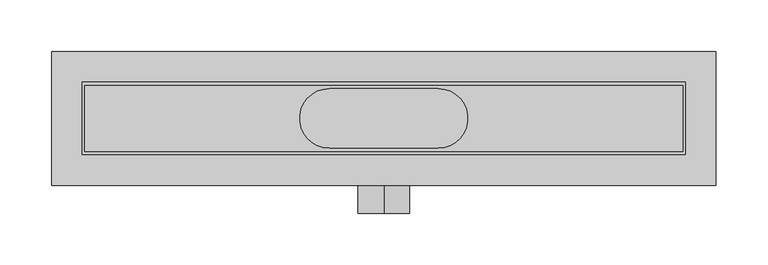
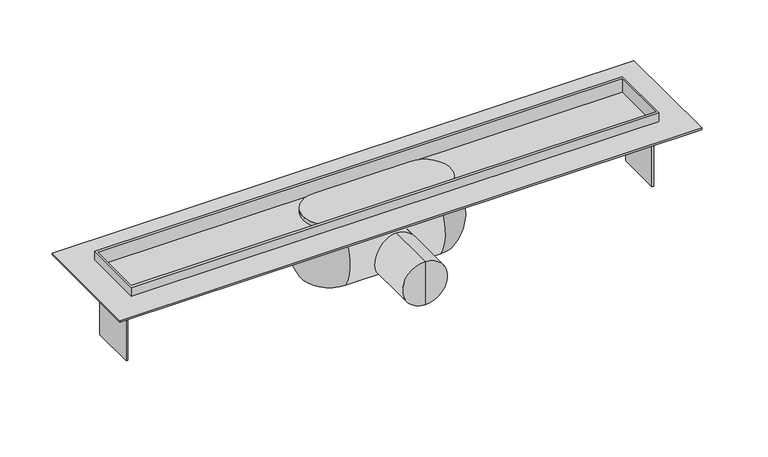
"""IFC4 building model written with IfcOpenShell, lengths in millimetres: sanitary terminal geometry, PF_ST_UN_ShowerDrain C INT_ACO : surrounding flange with horizontal connection."""

import ifcopenshell
import ifcopenshell.guid

model = None  # the IFC model being written
_history = None  # IfcOwnerHistory: only IFC2X3 demands one
_inside = {}  # id of a spatial element -> (the spatial element, [elements in it])
_under = {}  # id of a project, library or spatial element -> (it, [spatial elements below it])
_declared = {}  # id of a project -> (the project, [libraries it declares])
_typed = {}  # id of a type object -> (the type object, [elements of that type])
_made_of = {}  # id of a material, layer set ... -> (it, [elements and type objects made of it])


def new_model(schema):
    """Start an empty IFC model of exactly this schema.

    Asked for "IFC4X3", IfcOpenShell would pick the latest addendum, in which some entities
    have other attributes; the version numbers below select the first issue.
    IFC2X3 requires an IfcOwnerHistory on every rooted entity: one is made here for all.
    """
    global model, _history
    if schema == "IFC4X3":
        model = ifcopenshell.file(schema_version=(4, 3, 0, 0))
    else:
        model = ifcopenshell.file(schema=schema)
    _inside.clear()
    _under.clear()
    _declared.clear()
    _typed.clear()
    _made_of.clear()
    _history = None
    if model.schema == "IFC2X3":
        org = make("IfcOrganization", Name="unknown")
        user = make(
            "IfcPersonAndOrganization",
            ThePerson=make("IfcPerson", FamilyName="unknown"),
            TheOrganization=org,
        )
        app = make(
            "IfcApplication",
            ApplicationDeveloper=org,
            Version="unknown",
            ApplicationFullName="unknown",
            ApplicationIdentifier="unknown",
        )
        _history = make(
            "IfcOwnerHistory",
            OwningUser=user,
            OwningApplication=app,
            ChangeAction="ADDED",
            CreationDate=0,
        )
    return model


def make(cls, **values):
    """One entity of the class cls with the attributes given. An attribute that is None is left unset."""
    return model.create_entity(
        cls, **{name: value for name, value in values.items() if value is not None}
    )


def rooted(cls, **values):
    """An entity with a GlobalId (a new one), such as an element, a storey or a relation."""
    return make(cls, GlobalId=ifcopenshell.guid.new(), OwnerHistory=_history, **values)


def si_unit(unit_type, name, prefix=None):
    """IfcSIUnit, for example si_unit("LENGTHUNIT", "METRE", prefix="MILLI")."""
    return make("IfcSIUnit", UnitType=unit_type, Prefix=prefix, Name=name)


def assignment(units):
    """IfcUnitAssignment: the units of a project."""
    return None if units is None else make("IfcUnitAssignment", Units=units)


def point(xyz):
    """IfcCartesianPoint."""
    return None if xyz is None else make("IfcCartesianPoint", Coordinates=xyz)


def direction(xyz):
    """IfcDirection."""
    return None if xyz is None else make("IfcDirection", DirectionRatios=xyz)


def frame(location, z_axis=None, x_axis=None):
    """IfcAxis2Placement3D, a coordinate frame: its origin and axes. An axis left out is left unset."""
    return make(
        "IfcAxis2Placement3D",
        Location=point(location),
        Axis=direction(z_axis),
        RefDirection=direction(x_axis),
    )


def origin():
    """The frame at (0, 0, 0) with its axes left unset."""
    return frame((0.0, 0.0, 0.0))


def origin_with_axes():
    """The frame at (0, 0, 0) with the z axis (0, 0, 1) and the x axis (1, 0, 0) written out."""
    return frame((0.0, 0.0, 0.0), z_axis=(0.0, 0.0, 1.0), x_axis=(1.0, 0.0, 0.0))


def place(relative_to, where):
    """IfcLocalPlacement: puts the frame where relative to a parent placement (None: the world)."""
    return make(
        "IfcLocalPlacement", PlacementRelTo=relative_to, RelativePlacement=where
    )


def context(
    kind, dimensions, precision=None, world=None, true_north=None, identifier=None
):
    """IfcGeometricRepresentationContext, for example the 3D "Model" context."""
    return make(
        "IfcGeometricRepresentationContext",
        ContextIdentifier=identifier,
        ContextType=kind,
        CoordinateSpaceDimension=dimensions,
        Precision=precision,
        WorldCoordinateSystem=world,
        TrueNorth=true_north,
    )


def project(units=None, contexts=None):
    """IfcProject with its units and contexts."""
    return rooted(
        "IfcProject",
        Name="project",
        RepresentationContexts=contexts,
        UnitsInContext=assignment(units),
    )


def spatial(cls, under=None, at=None, **own):
    """A site, building, storey or space (cls), placed at a placement, below another one or the project."""
    s = rooted(cls, ObjectPlacement=at, **own)
    if under is not None:
        _under.setdefault(under.id(), (under, []))[1].append(s)
    return s


def polyline(points):
    """IfcPolyline through the points."""
    return make("IfcPolyline", Points=[point(p) for p in points])


def circle_curve(where, radius):
    """IfcCircle in the frame where."""
    return make("IfcCircle", Position=where, Radius=radius)


def ellipse_curve(where, semi_axis1, semi_axis2):
    """IfcEllipse in the frame where."""
    return make(
        "IfcEllipse", Position=where, SemiAxis1=semi_axis1, SemiAxis2=semi_axis2
    )


def trimmed(basis, trim1, trim2, sense, master):
    """IfcTrimmedCurve: the piece of a basis curve between two trims."""
    return make(
        "IfcTrimmedCurve",
        BasisCurve=basis,
        Trim1=trim1,
        Trim2=trim2,
        SenseAgreement=sense,
        MasterRepresentation=master,
    )


def outline(outer, holes=None, kind="AREA"):
    """IfcArbitraryClosedProfileDef: a profile drawn as a closed curve; with holes, ...WithVoids."""
    if holes is None:
        return make("IfcArbitraryClosedProfileDef", ProfileType=kind, OuterCurve=outer)
    return make(
        "IfcArbitraryProfileDefWithVoids",
        ProfileType=kind,
        OuterCurve=outer,
        InnerCurves=holes,
    )


def extrude(swept, where, along, depth):
    """IfcExtrudedAreaSolid: the profile swept, set in the frame where, extruded along a direction by depth."""
    return make(
        "IfcExtrudedAreaSolid",
        SweptArea=swept,
        Position=where,
        ExtrudedDirection=direction(along),
        Depth=depth,
    )


def faces_of(points, faces, orient=None, outer=None):
    """IfcFace entities. A face is a list of loops; a loop is a list of indices into points, from 0.

    orient and outer hold one flag for each loop. By default every Orientation is true, the
    first loop of a face is its IfcFaceOuterBound and the others are IfcFaceBound.
    """
    made = []
    for i, loops in enumerate(faces):
        bounds = []
        for j, loop in enumerate(loops):
            is_outer = j == 0 if outer is None else outer[i][j]
            bounds.append(
                make(
                    "IfcFaceOuterBound" if is_outer else "IfcFaceBound",
                    Bound=make("IfcPolyLoop", Polygon=[points[k] for k in loop]),
                    Orientation=True if orient is None else orient[i][j],
                )
            )
        made.append(make("IfcFace", Bounds=bounds))
    return made


def faceted_brep(points, faces, orient=None, outer=None, voids=None):
    """IfcFacetedBrep: a solid bounded by flat faces; with voids (closed shells), ...WithVoids."""
    shared = [point(p) for p in points]
    hull = make("IfcClosedShell", CfsFaces=faces_of(shared, faces, orient, outer))
    if voids is None:
        return make("IfcFacetedBrep", Outer=hull)
    return make(
        "IfcFacetedBrepWithVoids",
        Outer=hull,
        Voids=[
            make(cls, CfsFaces=faces_of(shared, fs, o, b)) for cls, fs, o, b in voids
        ],
    )


def shape(context_of_items, identifier, shape_type, items):
    """IfcShapeRepresentation: the items that make up one representation, for example the "Body"."""
    return make(
        "IfcShapeRepresentation",
        ContextOfItems=context_of_items,
        RepresentationIdentifier=identifier,
        RepresentationType=shape_type,
        Items=items,
    )


def source(mapping_origin, context_of_items, identifier, shape_type, items):
    """IfcRepresentationMap: a shape defined once, which mapped items show again and again."""
    return make(
        "IfcRepresentationMap",
        MappingOrigin=mapping_origin,
        MappedRepresentation=shape(context_of_items, identifier, shape_type, items),
    )


def transform(
    local_origin,
    x_axis=None,
    y_axis=None,
    z_axis=None,
    scale=None,
    scale2=None,
    scale3=None,
    uniform=True,
):
    """IfcCartesianTransformationOperator3D, or its non-uniform kind. x_axis, y_axis, z_axis: its Axis1, 2, 3."""
    if uniform:
        return make(
            "IfcCartesianTransformationOperator3D",
            Axis1=direction(x_axis),
            Axis2=direction(y_axis),
            LocalOrigin=point(local_origin),
            Scale=scale,
            Axis3=direction(z_axis),
        )
    return make(
        "IfcCartesianTransformationOperator3DnonUniform",
        Axis1=direction(x_axis),
        Axis2=direction(y_axis),
        LocalOrigin=point(local_origin),
        Scale=scale,
        Axis3=direction(z_axis),
        Scale2=scale2,
        Scale3=scale3,
    )


def mapped(mapping_source, mapping_target):
    """IfcMappedItem: shows the shape of a source again, moved by a transform."""
    return make(
        "IfcMappedItem", MappingSource=mapping_source, MappingTarget=mapping_target
    )


def made_of(thing, what):
    """Note that an element or type object is made of a material, layer set ...; save() writes the relation."""
    if what is not None:
        _made_of.setdefault(what.id(), (what, []))[1].append(thing)
    return thing


def element(
    cls,
    number,
    at=None,
    inside=None,
    cuts=None,
    type_object=None,
    material=None,
    context=None,
    identifier="Body",
    shape_type=None,
    held_by="IfcProductDefinitionShape",
    body=None,
    shapes=None,
    **own,
):
    """One element of the class cls, such as IfcWall. Its Tag is "e" and its number.

    at: its placement. inside: the storey or other place that contains it. cuts: it is an
    opening in that element (IfcRelVoidsElement). A single representation is given by context,
    identifier, shape_type and body (its items); several are given by shapes. held_by: the class
    of the entity that holds the representations. save() writes the other relations.
    """
    e = rooted(cls, Tag="e%d" % number, ObjectPlacement=at, **own)
    if body is not None:
        shapes = [shape(context, identifier, shape_type, body)]
    if shapes is not None:
        e.Representation = make(held_by, Representations=shapes)
    if inside is not None:
        _inside.setdefault(inside.id(), (inside, []))[1].append(e)
    if cuts is not None:
        rooted(
            "IfcRelVoidsElement", RelatingBuildingElement=cuts, RelatedOpeningElement=e
        )
    if type_object is not None:
        _typed.setdefault(type_object.id(), (type_object, []))[1].append(e)
    return made_of(e, material)


def aggregate(whole, parts):
    """IfcRelAggregates: a whole, such as a stair, and the parts it consists of."""
    return rooted("IfcRelAggregates", RelatingObject=whole, RelatedObjects=parts)


def save(model, path):
    """Write the relations noted so far, then the file.

    IfcRelAggregates (storeys below a building ...), IfcRelContainedInSpatialStructure (elements
    in a storey), IfcRelDefinesByType, IfcRelAssociatesMaterial and IfcRelDeclares: one each for
    every whole, place, type object, material and project.
    """
    for whole, parts in _under.values():
        aggregate(whole, parts)
    for where, things in _inside.values():
        rooted(
            "IfcRelContainedInSpatialStructure",
            RelatedElements=things,
            RelatingStructure=where,
        )
    for kind, things in _typed.values():
        rooted("IfcRelDefinesByType", RelatedObjects=things, RelatingType=kind)
    for what, things in _made_of.values():
        rooted("IfcRelAssociatesMaterial", RelatedObjects=things, RelatingMaterial=what)
    for by, libraries in _declared.values():
        rooted("IfcRelDeclares", RelatingContext=by, RelatedDefinitions=libraries)
    model.write(path)


def plane_surface(at):
    """IfcPlane: the flat surface through the origin of the frame at, square to its z axis."""
    return make("IfcPlane", Position=at)


def cylinder_surface(at, radius):
    """IfcCylindricalSurface: all points at the distance radius from the z axis of the frame at."""
    return make("IfcCylindricalSurface", Position=at, Radius=radius)


def revolved_surface(curve, axis_point, axis_direction):
    """IfcSurfaceOfRevolution: the curve turned about the line through axis_point along axis_direction."""
    return make(
        "IfcSurfaceOfRevolution",
        SweptCurve=make("IfcArbitraryOpenProfileDef", ProfileType="CURVE", Curve=curve),
        AxisPosition=make("IfcAxis1Placement", Location=point(axis_point), Axis=direction(axis_direction)),
    )


def advanced_brep(points, edges, surfaces, faces):
    """IfcAdvancedBrep: a solid bounded by faces that lie on surfaces and meet in shared edges.

    An edge is (start, end): straight between two places in points (the first is 0);
    or (start, end, curve); or (start, end, curve, False) where it runs against its curve.
    A face is (place in surfaces, loops), or (place, loops, False) where it looks against
    its surface's normal. A loop lists edges by number (the first is 1), with a minus sign
    where the edge is run from its end to its start. The first loop is the outer one.
    """
    corners = [point(p) for p in points]
    vertices = [make("IfcVertexPoint", VertexGeometry=c) for c in corners]
    made = []
    for start, end, *more in edges:
        made.append(
            make(
                "IfcEdgeCurve",
                EdgeStart=vertices[start],
                EdgeEnd=vertices[end],
                EdgeGeometry=more[0] if more else make("IfcPolyline", Points=[corners[start], corners[end]]),
                SameSense=more[1] if len(more) > 1 else True,
            )
        )
    hull = []
    for where, loops, *sense in faces:
        bounds = []
        for j, loop in enumerate(loops):
            ring = [make("IfcOrientedEdge", EdgeElement=made[abs(k) - 1], Orientation=k > 0) for k in loop]
            bounds.append(
                make(
                    "IfcFaceOuterBound" if j == 0 else "IfcFaceBound",
                    Bound=make("IfcEdgeLoop", EdgeList=ring),
                    Orientation=True,
                )
            )
        hull.append(make("IfcAdvancedFace", Bounds=bounds, FaceSurface=surfaces[where], SameSense=sense[0] if sense else True))
    return make("IfcAdvancedBrep", Outer=make("IfcClosedShell", CfsFaces=hull))


def sanitary_terminal_935b0597(model_context):
    return source(origin(), model_context, "Body", "SolidModel", [
        advanced_brep(
        [(-52.8420194, -28.757915, 0.0), (-52.8420194, 28.757915, 0.0), (-52.8420194, 28.757915, -11.7509027), (-52.8420194, -28.757915, -11.7509027), (-52.8420194, 20.3622022, -75.4877048), (-52.8420194, -20.3622022, -75.4877048), (-52.8420194, -30.8518848, -71.7143523), (-52.8420194, 30.8518848, -71.7143523), (52.8420194, -28.757915, 0.0), (52.8420194, -28.757915, -11.7509027), (52.8420194, -30.8518848, -71.7143523), (52.8420194, -20.3622022, -75.4877048), (52.8420194, 20.3622022, -75.4877048), (52.8420194, 30.8518848, -71.7143523), (52.8420194, 28.757915, -11.7509027), (52.8420194, 28.757915, 0.0)],
        [
            (0, 1, circle_curve(frame((-52.8420194, 0.0, 0.0), z_axis=(0.0, 0.0, -1.0), x_axis=(0.0, 1.0, 0.0)), 28.757915)),
            (1, 2),
            (2, 3, circle_curve(frame((-52.8420194, 0.0, -11.7509027), z_axis=(0.0, 0.0, 1.0), x_axis=(0.0, 1.0, 0.0)), 28.757915)),
            (3, 0),
            (4, 5, circle_curve(frame((-52.8420194, 0.0, -75.4877048), z_axis=(0.0, 0.0, 1.0), x_axis=(0.0, 1.0, 0.0)), 20.3622022)),
            (5, 6, circle_curve(frame((-52.8420194, -20.3622022, -59.0206997), z_axis=(-1.0, 0.0, 0.0), x_axis=(0.0, 1.0, 0.0)), 16.4670051)),
            (6, 7, circle_curve(frame((-52.8420194, 0.0, -71.7143523), z_axis=(0.0, 0.0, -1.0), x_axis=(0.0, 1.0, 0.0)), 30.8518848)),
            (7, 4, circle_curve(frame((-52.8420194, 20.3622022, -59.0206997), z_axis=(-1.0, 0.0, 0.0), x_axis=(0.0, -1.0, 0.0)), 16.4670051)),
            (2, 7, circle_curve(frame((-52.8420194, -11.2789491, -43.1673071), z_axis=(-1.0, 0.0, 0.0), x_axis=(0.0, -1.0, 0.0)), 50.8914625)),
            (6, 3, circle_curve(frame((-52.8420194, 11.2789491, -43.1673071), z_axis=(-1.0, 0.0, 0.0), x_axis=(0.0, 1.0, 0.0)), 50.8914625)),
            (8, 0),
            (3, 9),
            (9, 8),
            (6, 10),
            (10, 9, circle_curve(frame((52.8420194, 11.2789491, -43.1673071), z_axis=(-1.0, 0.0, 0.0), x_axis=(0.0, 1.0, 0.0)), 50.8914625)),
            (5, 11),
            (11, 10, circle_curve(frame((52.8420194, -20.3622022, -59.0206997), z_axis=(-1.0, 0.0, 0.0), x_axis=(0.0, 1.0, 0.0)), 16.4670051)),
            (4, 12),
            (12, 11, circle_curve(frame((52.8420194, 0.0, -75.4877048), z_axis=(0.0, 0.0, -1.0), x_axis=(0.0, 1.0, 0.0)), 20.3622022)),
            (7, 13),
            (13, 12, circle_curve(frame((52.8420194, 20.3622022, -59.0206997), z_axis=(-1.0, 0.0, 0.0), x_axis=(0.0, -1.0, 0.0)), 16.4670051)),
            (2, 14),
            (14, 13, circle_curve(frame((52.8420194, -11.2789491, -43.1673071), z_axis=(-1.0, 0.0, 0.0), x_axis=(0.0, -1.0, 0.0)), 50.8914625)),
            (1, 15),
            (15, 14),
            (8, 15, circle_curve(frame((52.8420194, 0.0, 0.0), z_axis=(0.0, 0.0, 1.0), x_axis=(0.0, 1.0, 0.0)), 28.757915)),
            (9, 14, circle_curve(frame((52.8420194, 0.0, -11.7509027), z_axis=(0.0, 0.0, 1.0), x_axis=(0.0, 1.0, 0.0)), 28.757915)),
            (10, 13, circle_curve(frame((52.8420194, 0.0, -71.7143523), z_axis=(0.0, 0.0, 1.0), x_axis=(0.0, 1.0, 0.0)), 30.8518848)),
        ],
        [
            cylinder_surface(frame((-52.8420194, 0.0, 20.0), z_axis=(0.0, 0.0, 1.0), x_axis=(0.0, 1.0, 0.0)), 28.757915),
            revolved_surface(trimmed(ellipse_curve(frame((-52.8420194, 20.3622022, -59.0206997), z_axis=(1.0, 0.0, 0.0), x_axis=(0.0, -1.0, 0.0)), 16.4670051, 16.4670051), [point((-52.8420194, 20.3622022, -75.4877048))], [point((-52.8420194, 30.8518848, -71.7143523))], True, "CARTESIAN"), (-52.8420194, 0.0, 20.0), (0.0, 0.0, 1.0)),
            revolved_surface(trimmed(ellipse_curve(frame((-52.8420194, -11.2789491, -43.1673071), z_axis=(1.0, 0.0, 0.0), x_axis=(0.0, -1.0, 0.0)), 50.8914625, 50.8914625), [point((-52.8420194, 30.8518848, -71.7143523))], [point((-52.8420194, 28.757915, -11.7509027))], True, "CARTESIAN"), (-52.8420194, 0.0, 20.0), (0.0, 0.0, 1.0)),
            plane_surface(frame((52.8420194, -28.757915, 0.0), z_axis=(0.0, -1.0, 0.0), x_axis=(-1.0, 0.0, 0.0))),
            cylinder_surface(frame((-52.8420194, 11.2789491, -43.1673071), z_axis=(1.0, 0.0, 0.0), x_axis=(0.0, 1.0, 0.0)), 50.8914625),
            cylinder_surface(frame((-52.8420194, -20.3622022, -59.0206997), z_axis=(1.0, 0.0, 0.0), x_axis=(0.0, 1.0, 0.0)), 16.4670051),
            plane_surface(frame((52.8420194, -20.3622022, -75.4877048), z_axis=(0.0, 0.0, -1.0), x_axis=(-1.0, 0.0, 0.0))),
            cylinder_surface(frame((-52.8420194, 20.3622022, -59.0206997), z_axis=(1.0, 0.0, 0.0), x_axis=(0.0, -1.0, 0.0)), 16.4670051),
            cylinder_surface(frame((-52.8420194, -11.2789491, -43.1673071), z_axis=(1.0, 0.0, 0.0), x_axis=(0.0, -1.0, 0.0)), 50.8914625),
            plane_surface(frame((52.8420194, 28.757915, -11.7509027), z_axis=(0.0, 1.0, 0.0), x_axis=(-1.0, 0.0, 0.0))),
            plane_surface(frame((52.8420194, 28.757915, 0.0), z_axis=(0.0, 0.0, 1.0), x_axis=(-1.0, 0.0, 0.0))),
            cylinder_surface(frame((52.8420194, 0.0, 20.0), z_axis=(0.0, 0.0, 1.0), x_axis=(0.0, 1.0, 0.0)), 28.757915),
            revolved_surface(trimmed(ellipse_curve(frame((52.8420194, -11.2789491, -43.1673071), z_axis=(1.0, 0.0, 0.0), x_axis=(0.0, -1.0, 0.0)), 50.8914625, 50.8914625), [point((52.8420194, 30.8518848, -71.7143523))], [point((52.8420194, 28.757915, -11.7509027))], True, "CARTESIAN"), (52.8420194, 0.0, 20.0), (0.0, 0.0, 1.0)),
            revolved_surface(trimmed(ellipse_curve(frame((52.8420194, 20.3622022, -59.0206997), z_axis=(1.0, 0.0, 0.0), x_axis=(0.0, -1.0, 0.0)), 16.4670051, 16.4670051), [point((52.8420194, 20.3622022, -75.4877048))], [point((52.8420194, 30.8518848, -71.7143523))], True, "CARTESIAN"), (52.8420194, 0.0, 20.0), (0.0, 0.0, 1.0)),
        ],
        [
            (0, [[1, 2, 3, 4]]),
            (1, [[5, 6, 7, 8]]),
            (2, [[-3, 9, -7, 10]]),
            (3, [[11, -4, 12, 13]]),
            (4, [[-12, -10, 14, 15]]),
            (5, [[-14, -6, 16, 17]]),
            (6, [[-16, -5, 18, 19]]),
            (7, [[-18, -8, 20, 21]]),
            (8, [[-20, -9, 22, 23]]),
            (9, [[-22, -2, 24, 25]]),
            (10, [[-11, 26, -24, -1]]),
            (11, [[27, -25, -26, -13]]),
            (12, [[-27, -15, 28, -23]]),
            (13, [[-28, -17, -19, -21]]),
        ],
    ),
        advanced_brep(
        [(0.0, -92.5, -50.4496), (0.0, -92.5, -25.404795), (0.0, -92.5, -75.494405), (0.0, -23.2223331, -75.494405), (0.0, -23.2223331, -25.404795), (0.0, -23.2223331, -50.4496)],
        [
            (0, 1),
            (1, 2, circle_curve(frame((0.0, -92.5, -50.4496), z_axis=(0.0, -1.0, 0.0), x_axis=(0.0, 0.0, 1.0)), 25.044805)),
            (2, 0),
            (2, 1, circle_curve(frame((0.0, -92.5, -50.4496), z_axis=(0.0, -1.0, 0.0), x_axis=(0.0, 0.0, 1.0)), 25.044805)),
            (3, 4, circle_curve(frame((0.0, -23.2223331, -50.4496), z_axis=(0.0, 1.0, 0.0), x_axis=(0.0, 0.0, 1.0)), 25.044805)),
            (4, 5),
            (5, 3),
            (4, 3, circle_curve(frame((0.0, -23.2223331, -50.4496), z_axis=(0.0, 1.0, 0.0), x_axis=(0.0, 0.0, 1.0)), 25.044805)),
            (1, 4),
            (3, 2),
        ],
        [
            plane_surface(frame((0.0, -92.5, -50.4496), z_axis=(0.0, -1.0, 0.0), x_axis=(0.0, 0.0, 1.0))),
            plane_surface(frame((0.0, -23.2223331, -50.4496), z_axis=(0.0, 1.0, 0.0), x_axis=(0.0, 0.0, 1.0))),
            cylinder_surface(frame((0.0, -92.5, -50.4496), z_axis=(0.0, -1.0, 0.0), x_axis=(0.0, 0.0, 1.0)), 25.044805),
        ],
        [
            (0, [[1, 2, 3]]),
            (0, [[-3, 4, -1]]),
            (1, [[5, 6, 7]]),
            (1, [[8, -7, -6]]),
            (2, [[-2, 9, -5, 10]]),
            (2, [[-4, -10, -8, -9]]),
        ],
    ),
        faceted_brep([(292.5, 35.0, 12.0), (-292.5, 35.0, 12.0), (-292.5, -35.0, 12.0), (292.5, -35.0, 12.0), (-290.5, 32.0, 12.0), (290.5, 32.0, 12.0), (290.5, -32.0, 12.0), (-290.5, -32.0, 12.0), (292.5, -35.0, -6.0), (-292.5, -35.0, -6.0), (-292.5, -25.0, -6.0), (-290.5, -25.0, -6.0), (-290.5, 25.0, -6.0), (-292.5, 25.0, -6.0), (-292.5, 35.0, -6.0), (292.5, 35.0, -6.0), (292.5, 25.0, -6.0), (290.5, 25.0, -6.0), (290.5, -25.0, -6.0), (292.5, -25.0, -6.0), (-292.5, 25.0, -80.0), (-292.5, -25.0, -80.0), (292.5, -25.0, -80.0), (292.5, 25.0, -80.0), (290.5, 32.0, -4.0), (-290.5, 32.0, -4.0), (-290.5, -32.0, -4.0), (290.5, -32.0, -4.0), (290.5, -25.0, -80.0), (-290.5, -25.0, -80.0), (-290.5, 25.0, -80.0), (290.5, 25.0, -80.0)], [[[0, 1, 2, 3], [4, 5, 6, 7]], [[8, 9, 10, 11, 12, 13, 14, 15, 16, 17, 18, 19]], [[1, 0, 15, 14]], [[2, 1, 14, 13, 20, 21, 10, 9]], [[3, 2, 9, 8]], [[0, 3, 8, 19, 22, 23, 16, 15]], [[24, 25, 26, 27]], [[25, 24, 5, 4]], [[26, 25, 4, 7]], [[27, 26, 7, 6]], [[24, 27, 6, 5]], [[22, 19, 18, 28]], [[21, 29, 11, 10]], [[20, 13, 12, 30]], [[23, 31, 17, 16]], [[29, 21, 20, 30]], [[11, 29, 30, 12]], [[28, 18, 17, 31]], [[22, 28, 31, 23]]]),
        extrude(outline(polyline([(322.5, 65.0), (322.5, -65.0), (-322.5, -65.0), (-322.5, 65.0), (322.5, 65.0)]), holes=[polyline([(290.5, 32.0), (-290.5, 32.0), (-290.5, -32.0), (290.5, -32.0), (290.5, 32.0)])]), origin_with_axes(), (0.0, 0.0, 1.0), 2.0),
    ])


if __name__ == "__main__":
    model = new_model("IFC4")
    model_context = context("Model", 3, world=origin())
    ifc_project = project(units=[si_unit("LENGTHUNIT", "METRE", prefix="MILLI")], contexts=[model_context])
    site = spatial("IfcSite", under=ifc_project)
    building = spatial("IfcBuilding", under=site)
    placement = place(None, origin())
    sanitary_terminal_shape = sanitary_terminal_935b0597(model_context)
    element("IfcSanitaryTerminal", 1, ObjectType="PF_ST_UN_ShowerDrain C INT_ACO : surrounding flange with horizontal connection", at=placement, inside=building, context=model_context, shape_type="MappedRepresentation", body=[
        mapped(sanitary_terminal_shape, transform((0.0, 0.0, 0.0), x_axis=(1.0, 0.0, 0.0), y_axis=(0.0, 1.0, 0.0), z_axis=(0.0, 0.0, 1.0))),
    ])
    save(model, "model.ifc")
